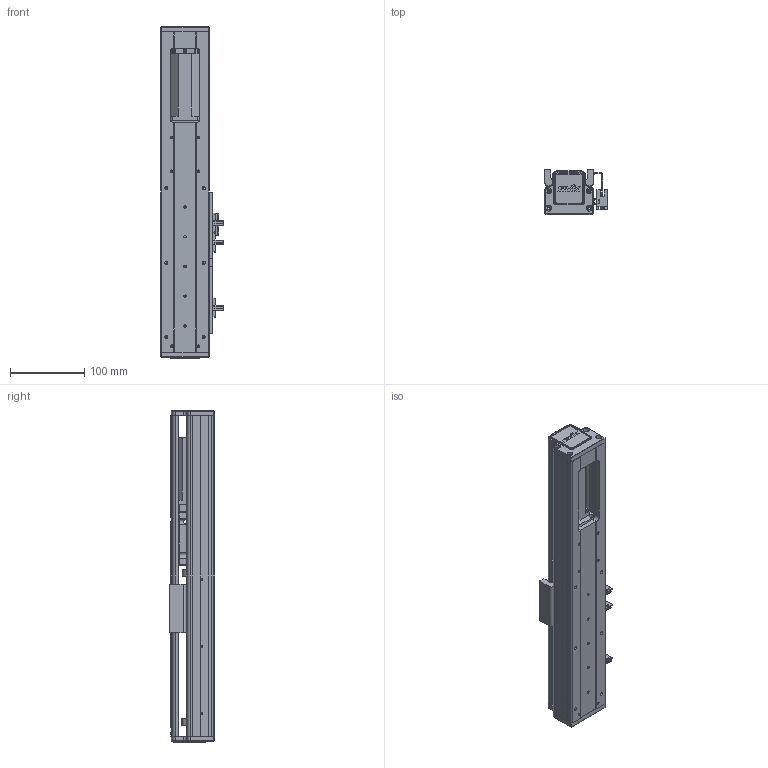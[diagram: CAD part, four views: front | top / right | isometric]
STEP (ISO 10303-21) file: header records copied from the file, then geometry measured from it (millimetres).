
FILE_DESCRIPTION (( 'STEP AP203' ), '1' );
FILE_NAME ('RY60-L1210-300-IK.SLDASM_100.step', '2021-02-22T05:11:54', ( '盈信电脑' ), ( '东莞市道滘镇水果街19号' ), 'SwSTEP 2.0', 'SolidWorks 2012', '' );
FILE_SCHEMA (( 'CONFIG_CONTROL_DESIGN' ));
Length unit declared in the file: millimetre
Products named in the file (12): 覜茼ん672; RY60萇儂傷盓傅釱; RY60綴裔啣; 672嫖萇羲壽假蚾釱; RY60-300倰第菁釱-IK_100; RY60臏賑輸; RY60-300倰第裔啣-IK_100; RY80俋离覜茼え; RY60-L1210-300-IK.SLDASM_100; RY60-内置电机板100W（m3）; 侂狟100W; 滅袉蝶18-10
Assembly tree (18 placements, depth 2):
  RY60-L1210-300-IK.SLDASM_100
    RY60-300倰第菁釱-IK_100
    RY60臏賑輸
    RY60-300倰第裔啣-IK_100
    RY60萇儂傷盓傅釱
    672嫖萇羲壽假蚾釱  x2
    RY60綴裔啣  x2
    覜茼ん672  x3
    RY80俋离覜茼え
    侂狟100W
    滅袉蝶18-10  x4
    RY60-内置电机板100W（m3）
Bounding box: 83.7 x 61 x 446 mm (x, y, z)
Volume: 687257.9 mm3; surface area: 317288.5 mm2
Topology: 18 solids, 18 shells, 1419 faces, 3934 edges, 2549 vertices
Faces by surface type: plane 777, cylinder 540, cone 86, bspline 16
Entity records: 37181 total; most frequent: CARTESIAN_POINT 8536, ORIENTED_EDGE 5784, DIRECTION 5553, EDGE_CURVE 2892, VERTEX_POINT 1895, AXIS2_PLACEMENT_3D 1866, LINE 1821, VECTOR 1821
